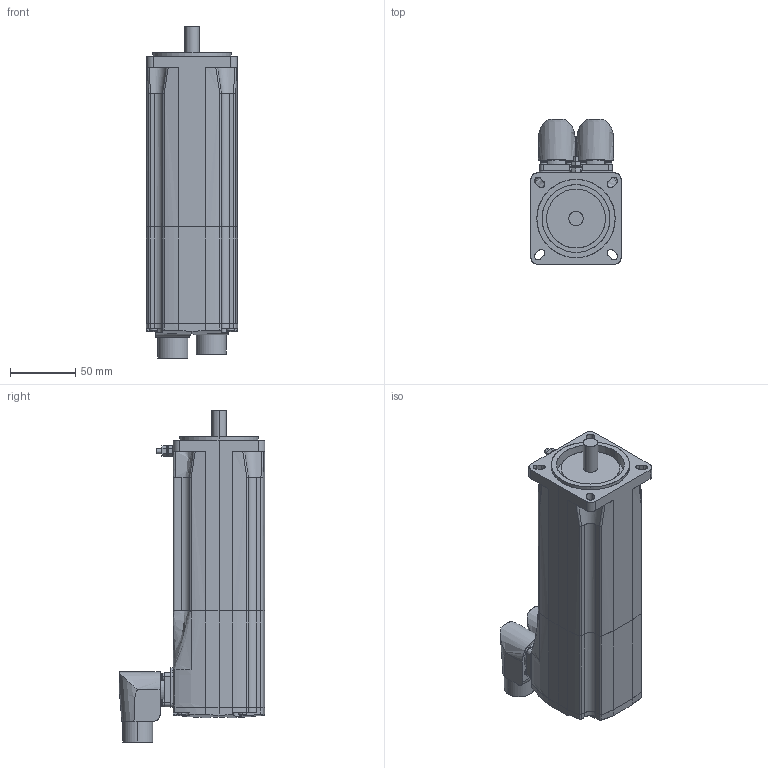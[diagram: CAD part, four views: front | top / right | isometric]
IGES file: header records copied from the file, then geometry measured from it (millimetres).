
Start section: SolidWorks IGES file using analytic representation for surfaces
Global section: file name: C:\PDM\SW-SAP\AA-IGES\SH30702x0xF2100.IGS; native system: SolidWorks 2010; preprocessor: SolidWorks 2010; author: SESA21951; date: 131129.085834; units: millimetre
Bounding box: 70 x 111.4 x 254.45 mm (x, y, z)
Surface area: 103019 mm2 (no closed solid volume)
Topology: 0 solids, 0 shells, 464 faces, 6662 edges, 6658 vertices
Faces by surface type: bspline 234, revolution 230
